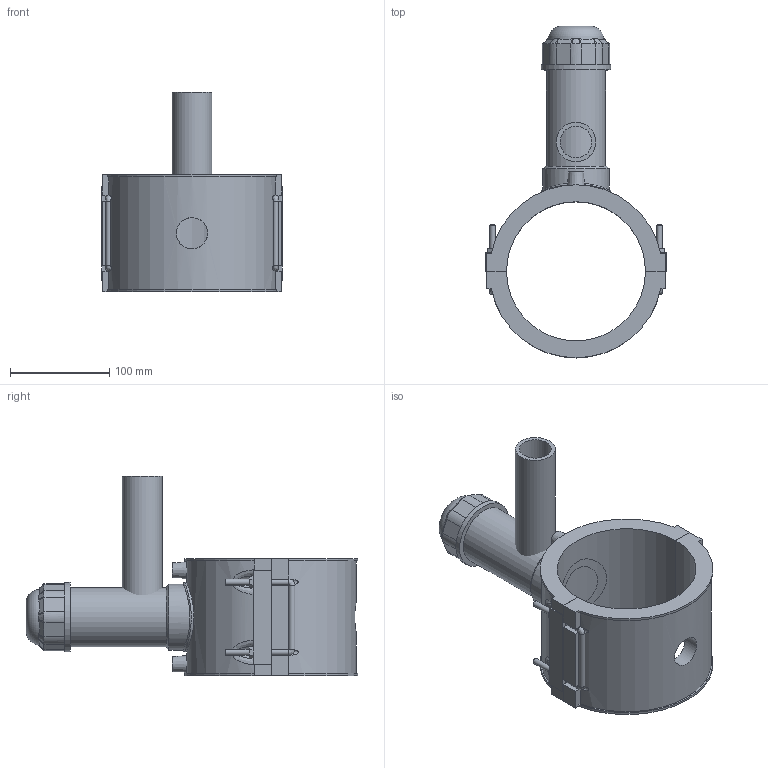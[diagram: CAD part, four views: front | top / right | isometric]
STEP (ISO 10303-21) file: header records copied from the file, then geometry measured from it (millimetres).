
FILE_DESCRIPTION(/* description */ (''),/* implementation_level */ '2;1');
FILE_NAME(/* name */ 'C:\Dropbox\KIMPROJECTS-Inventor 2019\99-16-3568-Processing\ElectroFusion Fittings\4963P4\stp\4963P4140040.stp',/* time_stamp */ '2022-03-17T11:29:24+02:00',/* author */ ('KIM'),/* organization */ (''),/* preprocessor_version */ 'ST-DEVELOPER v17.2',/* originating_system */ 'Autodesk Inventor 2019',/* authorisation */ '');
FILE_SCHEMA (('AUTOMOTIVE_DESIGN { 1 0 10303 214 3 1 1 }'));
Length unit declared in the file: millimetre
Products named in the file (1): 4963P4140040
Bounding box: 182 x 334.11 x 201 mm (x, y, z)
Volume: 1290850.2 mm3; surface area: 250956 mm2
Topology: 3 solids, 3 shells, 217 faces, 551 edges, 349 vertices
Faces by surface type: plane 119, cylinder 53, bspline 29, cone 15, torus 1
Full cylindrical faces by diameter (mm): 4 x2, 6 x8, 10 x2, 31.36 x1, 32 x1, 40 x1, 49 x1, 59.5 x1, 66.5 x1, 70 x2
Entity records: 8001 total; most frequent: CARTESIAN_POINT 2914, ORIENTED_EDGE 1086, DIRECTION 966, EDGE_CURVE 543, VERTEX_POINT 349, AXIS2_PLACEMENT_3D 331, LINE 304, VECTOR 304
